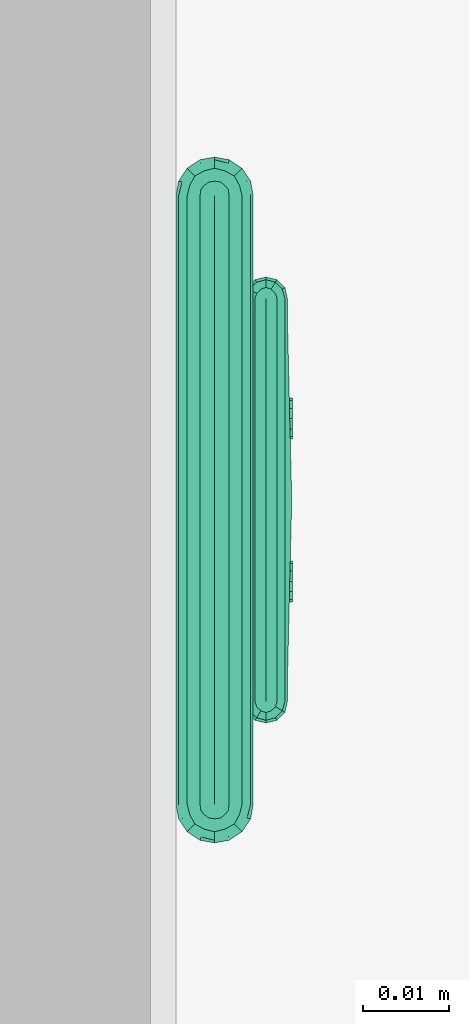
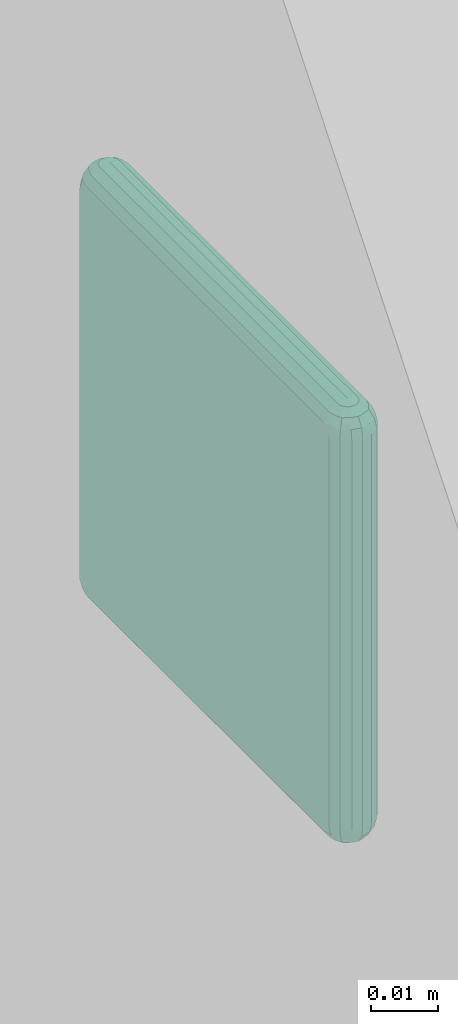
# One storey, part 8 of 11: 1 outlet.
"""IFC4 building model written with IfcOpenShell, lengths in millimetres."""

from ifc_helpers import new_model, si_unit, frame, origin_with_axes, place, context, subcontext, project, spatial, triangles, material, constituent, constituent_set, element, save


model = new_model("IFC4")

# Units and contexts
model_context = context("Model", 3, precision=0.01, world=origin_with_axes())
body_context = subcontext(model_context, "Body", "Model", "MODEL_VIEW")
ifc_project = project(units=[si_unit("LENGTHUNIT", "METRE", prefix="MILLI"), si_unit("AREAUNIT", "SQUARE_METRE"), si_unit("VOLUMEUNIT", "CUBIC_METRE"), si_unit("PLANEANGLEUNIT", "RADIAN")], contexts=[model_context])

# Site, building, storey
site_placement = place(None, origin_with_axes())
site = spatial("IfcSite", under=ifc_project, at=site_placement, Name="Участок", CompositionType="ELEMENT")
building_placement = place(site_placement, origin_with_axes())
building = spatial("IfcBuilding", under=site, at=building_placement, Name="Жилой дом", CompositionType="ELEMENT")
storey_placement = place(building_placement, origin_with_axes())
storey = spatial("IfcBuildingStorey", under=building, at=storey_placement, Name="Квартира ±0,000", CompositionType="ELEMENT", Elevation=0.0)

# Outlet
ifc_material_1 = material(Name="ЭУИ белые матовые (по кадру)")
ifc_constituent_1 = constituent(ifc_material_1)
ifc_material_2 = material(Name="Металл чёрный матовый RAL 9005")
ifc_constituent_2 = constituent(ifc_material_2)
ifc_constituent_set = constituent_set(constituents=[ifc_constituent_1, ifc_constituent_2], Name="ЭУИ белые матовые (по кадру) + Металл чёрный матовый RAL 9005")
outlet_placement = place(storey_placement, frame((3.0, 3035.0, 2100.0)))
element("IfcOutlet", 1, at=outlet_placement, inside=storey, material=ifc_constituent_set, Name="Розетка +2100", PredefinedType="POWEROUTLET", context=body_context, shape_type="Tessellation", body=[
    triangles([(4.5, 75.5, 0.0), (4.5, 75.5, 0.0), (4.5, 75.5, 0.0), (4.5, 75.5, 0.0), (4.5, 75.5, 0.0), (4.5, 4.5, 0.0), (4.5, 4.5, 0.0), (4.5, 4.5, 0.0), (4.5, 4.5, 0.0), (4.5, 4.5, 0.0), (4.5, 4.5, 0.0), (4.5, 4.5, 0.0), (4.5, 4.5, 0.0), (4.5, 4.5, 0.0), (4.5, 4.5, 0.0), (4.5, 75.5, 0.0), (4.5, 75.5, 0.0), (4.5, 75.5, 0.0), (4.5, 75.5, 0.0), (4.5, 75.5, 0.0), (4.5, 77.2, 0.3), (5.2, 77.1, 0.3), (5.7, 76.7, 0.3), (6.1, 76.2, 0.3), (6.2, 75.5, 0.3), (6.2, 4.5, 0.3), (6.1, 3.8, 0.3), (5.7, 3.3, 0.3), (5.2, 2.9, 0.3), (4.5, 2.8, 0.3), (4.5, 2.8, 0.3), (3.8, 2.9, 0.3), (3.3, 3.3, 0.3), (2.9, 3.8, 0.3), (2.8, 4.5, 0.3), (2.8, 75.5, 0.3), (2.9, 76.2, 0.3), (3.3, 76.7, 0.3), (3.8, 77.1, 0.3), (4.5, 77.2, 0.3), (4.5, 78.7, 1.3), (5.7, 78.4, 1.3), (6.8, 77.8, 1.3), (7.4, 76.7, 1.3), (7.7, 75.5, 1.3), (7.7, 4.5, 1.3), (7.4, 3.3, 1.3), (6.8, 2.2, 1.3), (5.7, 1.6, 1.3), (4.5, 1.3, 1.3), (4.5, 1.3, 1.3), (3.3, 1.6, 1.3), (2.2, 2.2, 1.3), (1.6, 3.3, 1.3), (1.3, 4.5, 1.3), (1.3, 75.5, 1.3), (1.6, 76.7, 1.3), (2.2, 77.8, 1.3), (3.3, 78.4, 1.3), (4.5, 78.7, 1.3), (4.5, 79.7, 2.8), (6.1, 79.3, 2.8), (7.4, 78.4, 2.8), (8.3, 77.1, 2.8), (8.7, 75.5, 2.8), (8.7, 4.5, 2.8), (8.3, 2.9, 2.8), (7.4, 1.6, 2.8), (6.1, 0.7, 2.8), (4.5, 0.3, 2.8), (4.5, 0.3, 2.8), (2.9, 0.7, 2.8), (1.6, 1.6, 2.8), (0.7, 2.9, 2.8), (0.3, 4.5, 2.8), (0.3, 75.5, 2.8), (0.7, 77.1, 2.8), (1.6, 78.4, 2.8), (2.9, 79.3, 2.8), (4.5, 79.7, 2.8), (4.5, 80.0, 4.5), (6.2, 79.7, 4.5), (7.7, 78.7, 4.5), (8.7, 77.2, 4.5), (9.0, 75.5, 4.5), (9.0, 4.5, 4.5), (8.7, 2.8, 4.5), (7.7, 1.3, 4.5), (6.2, 0.3, 4.5), (4.5, 0.0, 4.5), (4.5, 0.0, 4.5), (2.8, 0.3, 4.5), (1.3, 1.3, 4.5), (0.3, 2.8, 4.5), (0.0, 4.5, 4.5), (0.0, 75.5, 4.5), (0.3, 77.2, 4.5), (1.3, 78.7, 4.5), (2.8, 79.7, 4.5), (4.5, 80.0, 4.5), (4.5, 80.0, 75.5), (6.2, 79.7, 75.5), (7.7, 78.7, 75.5), (8.7, 77.2, 75.5), (9.0, 75.5, 75.5), (9.0, 4.5, 75.5), (8.7, 2.8, 75.5), (7.7, 1.3, 75.5), (6.2, 0.3, 75.5), (4.5, 0.0, 75.5), (4.5, 0.0, 75.5), (2.8, 0.3, 75.5), (1.3, 1.3, 75.5), (0.3, 2.8, 75.5), (0.0, 4.5, 75.5), (0.0, 75.5, 75.5), (0.3, 77.2, 75.5), (1.3, 78.7, 75.5), (2.8, 79.7, 75.5), (4.5, 80.0, 75.5), (4.5, 79.7, 77.2), (6.1, 79.3, 77.2), (7.4, 78.4, 77.2), (8.3, 77.1, 77.2), (8.7, 75.5, 77.2), (8.7, 4.5, 77.2), (8.3, 2.9, 77.2), (7.4, 1.6, 77.2), (6.1, 0.7, 77.2), (4.5, 0.3, 77.2), (4.5, 0.3, 77.2), (2.9, 0.7, 77.2), (1.6, 1.6, 77.2), (0.7, 2.9, 77.2), (0.3, 4.5, 77.2), (0.3, 75.5, 77.2), (0.7, 77.1, 77.2), (1.6, 78.4, 77.2), (2.9, 79.3, 77.2), (4.5, 79.7, 77.2), (4.5, 78.7, 78.7), (5.7, 78.4, 78.7), (6.8, 77.8, 78.7), (7.4, 76.7, 78.7), (7.7, 75.5, 78.7), (7.7, 4.5, 78.7), (7.4, 3.3, 78.7), (6.8, 2.2, 78.7), (5.7, 1.6, 78.7), (4.5, 1.3, 78.7), (4.5, 1.3, 78.7), (3.3, 1.6, 78.7), (2.2, 2.2, 78.7), (1.6, 3.3, 78.7), (1.3, 4.5, 78.7), (1.3, 75.5, 78.7), (1.6, 76.7, 78.7), (2.2, 77.8, 78.7), (3.3, 78.4, 78.7), (4.5, 78.7, 78.7), (4.5, 77.2, 79.7), (5.2, 77.1, 79.7), (5.7, 76.7, 79.7), (6.1, 76.2, 79.7), (6.2, 75.5, 79.7), (6.2, 4.5, 79.7), (6.1, 3.8, 79.7), (5.7, 3.3, 79.7), (5.2, 2.9, 79.7), (4.5, 2.8, 79.7), (4.5, 2.8, 79.7), (3.8, 2.9, 79.7), (3.3, 3.3, 79.7), (2.9, 3.8, 79.7), (2.8, 4.5, 79.7), (2.8, 75.5, 79.7), (2.9, 76.2, 79.7), (3.3, 76.7, 79.7), (3.8, 77.1, 79.7), (4.5, 77.2, 79.7), (4.5, 75.5, 80.0), (4.5, 75.5, 80.0), (4.5, 75.5, 80.0), (4.5, 75.5, 80.0), (4.5, 75.5, 80.0), (4.5, 4.5, 80.0), (4.5, 4.5, 80.0), (4.5, 4.5, 80.0), (4.5, 4.5, 80.0), (4.5, 4.5, 80.0), (4.5, 4.5, 80.0), (4.5, 4.5, 80.0), (4.5, 4.5, 80.0), (4.5, 4.5, 80.0), (4.5, 4.5, 80.0), (4.5, 75.5, 80.0), (4.5, 75.5, 80.0), (4.5, 75.5, 80.0), (4.5, 75.5, 80.0), (4.5, 75.5, 80.0), (10.5, 63.5, 14.0), (10.5, 63.5, 14.0), (10.5, 63.5, 14.0), (10.5, 63.5, 14.0), (10.5, 16.5, 14.0), (10.5, 16.5, 14.0), (10.5, 16.5, 14.0), (10.5, 16.5, 14.0), (10.5, 16.5, 14.0), (10.5, 16.5, 14.0), (10.5, 16.5, 14.0), (10.5, 16.5, 14.0), (10.5, 63.5, 14.0), (10.5, 63.5, 14.0), (10.5, 63.5, 14.0), (10.5, 63.5, 14.0), (10.5, 64.8, 14.3), (11.1, 64.6, 14.3), (11.6, 64.1, 14.3), (11.8, 63.5, 14.3), (11.8, 16.5, 14.3), (11.6, 15.9, 14.3), (11.1, 15.4, 14.3), (10.5, 15.2, 14.3), (10.5, 15.2, 14.3), (9.9, 15.4, 14.3), (9.4, 15.9, 14.3), (9.2, 16.5, 14.3), (9.2, 63.5, 14.3), (9.4, 64.1, 14.3), (9.9, 64.6, 14.3), (10.5, 64.8, 14.3), (10.5, 65.7, 15.2), (11.6, 65.4, 15.2), (12.4, 64.6, 15.2), (12.7, 63.5, 15.2), (12.7, 16.5, 15.2), (12.4, 15.4, 15.2), (11.6, 14.6, 15.2), (10.5, 14.3, 15.2), (10.5, 14.3, 15.2), (9.4, 14.6, 15.2), (8.6, 15.4, 15.2), (8.3, 16.5, 15.2), (8.3, 63.5, 15.2), (8.6, 64.6, 15.2), (9.4, 65.4, 15.2), (10.5, 65.7, 15.2), (10.5, 66.0, 16.5), (11.8, 65.7, 16.5), (12.7, 64.8, 16.5), (13.0, 63.5, 16.5), (13.0, 16.5, 16.5), (12.7, 15.2, 16.5), (11.8, 14.3, 16.5), (10.5, 14.0, 16.5), (10.5, 14.0, 16.5), (9.2, 14.3, 16.5), (8.3, 15.2, 16.5), (8.0, 16.5, 16.5), (8.0, 63.5, 16.5), (8.3, 64.8, 16.5), (9.2, 65.7, 16.5), (10.5, 66.0, 16.5), (10.5, 66.0, 63.5), (11.8, 65.7, 63.5), (12.7, 64.8, 63.5), (13.0, 63.5, 63.5), (13.0, 16.5, 63.5), (12.7, 15.2, 63.5), (11.8, 14.3, 63.5), (10.5, 14.0, 63.5), (10.5, 14.0, 63.5), (9.2, 14.3, 63.5), (8.3, 15.2, 63.5), (8.0, 16.5, 63.5), (8.0, 63.5, 63.5), (8.3, 64.8, 63.5), (9.2, 65.7, 63.5), (10.5, 66.0, 63.5), (10.5, 65.7, 64.8), (11.6, 65.4, 64.8), (12.4, 64.6, 64.8), (12.7, 63.5, 64.8), (12.7, 16.5, 64.8), (12.4, 15.4, 64.8), (11.6, 14.6, 64.8), (10.5, 14.3, 64.8), (10.5, 14.3, 64.8), (9.4, 14.6, 64.8), (8.6, 15.4, 64.8), (8.3, 16.5, 64.8), (8.3, 63.5, 64.8), (8.6, 64.6, 64.8), (9.4, 65.4, 64.8), (10.5, 65.7, 64.8), (10.5, 64.8, 65.7), (11.1, 64.6, 65.7), (11.6, 64.1, 65.7), (11.8, 63.5, 65.7), (11.8, 16.5, 65.7), (11.6, 15.9, 65.7), (11.1, 15.4, 65.7), (10.5, 15.2, 65.7), (10.5, 15.2, 65.7), (9.9, 15.4, 65.7), (9.4, 15.9, 65.7), (9.2, 16.5, 65.7), (9.2, 63.5, 65.7), (9.4, 64.1, 65.7), (9.9, 64.6, 65.7), (10.5, 64.8, 65.7), (10.5, 63.5, 66.0), (10.5, 63.5, 66.0), (10.5, 63.5, 66.0), (10.5, 63.5, 66.0), (10.5, 16.5, 66.0), (10.5, 16.5, 66.0), (10.5, 16.5, 66.0), (10.5, 16.5, 66.0), (10.5, 16.5, 66.0), (10.5, 16.5, 66.0), (10.5, 16.5, 66.0), (10.5, 16.5, 66.0), (10.5, 63.5, 66.0), (10.5, 63.5, 66.0), (10.5, 63.5, 66.0), (10.5, 63.5, 66.0)], [[1, 2, 22], [1, 22, 21], [2, 3, 23], [2, 23, 22], [3, 4, 24], [3, 24, 23], [4, 5, 25], [4, 25, 24], [5, 6, 26], [5, 26, 25], [6, 7, 27], [6, 27, 26], [7, 8, 28], [7, 28, 27], [8, 9, 29], [8, 29, 28], [9, 10, 30], [9, 30, 29], [10, 11, 31], [10, 31, 30], [11, 12, 32], [11, 32, 31], [12, 13, 33], [12, 33, 32], [13, 14, 34], [13, 34, 33], [14, 15, 35], [14, 35, 34], [15, 16, 36], [15, 36, 35], [16, 17, 37], [16, 37, 36], [17, 18, 38], [17, 38, 37], [18, 19, 39], [18, 39, 38], [19, 20, 40], [19, 40, 39], [20, 1, 21], [20, 21, 40], [21, 22, 42], [21, 42, 41], [22, 23, 43], [22, 43, 42], [23, 24, 44], [23, 44, 43], [24, 25, 45], [24, 45, 44], [25, 26, 46], [25, 46, 45], [26, 27, 47], [26, 47, 46], [27, 28, 48], [27, 48, 47], [28, 29, 49], [28, 49, 48], [29, 30, 50], [29, 50, 49], [30, 31, 51], [30, 51, 50], [31, 32, 52], [31, 52, 51], [32, 33, 53], [32, 53, 52], [33, 34, 54], [33, 54, 53], [34, 35, 55], [34, 55, 54], [35, 36, 56], [35, 56, 55], [36, 37, 57], [36, 57, 56], [37, 38, 58], [37, 58, 57], [38, 39, 59], [38, 59, 58], [39, 40, 60], [39, 60, 59], [40, 21, 41], [40, 41, 60], [41, 42, 62], [41, 62, 61], [42, 43, 63], [42, 63, 62], [43, 44, 64], [43, 64, 63], [44, 45, 65], [44, 65, 64], [45, 46, 66], [45, 66, 65], [46, 47, 67], [46, 67, 66], [47, 48, 68], [47, 68, 67], [48, 49, 69], [48, 69, 68], [49, 50, 70], [49, 70, 69], [50, 51, 71], [50, 71, 70], [51, 52, 72], [51, 72, 71], [52, 53, 73], [52, 73, 72], [53, 54, 74], [53, 74, 73], [54, 55, 75], [54, 75, 74], [55, 56, 76], [55, 76, 75], [56, 57, 77], [56, 77, 76], [57, 58, 78], [57, 78, 77], [58, 59, 79], [58, 79, 78], [59, 60, 80], [59, 80, 79], [60, 41, 61], [60, 61, 80], [61, 62, 82], [61, 82, 81], [62, 63, 83], [62, 83, 82], [63, 64, 84], [63, 84, 83], [64, 65, 85], [64, 85, 84], [65, 66, 86], [65, 86, 85], [66, 67, 87], [66, 87, 86], [67, 68, 88], [67, 88, 87], [68, 69, 89], [68, 89, 88], [69, 70, 90], [69, 90, 89], [70, 71, 91], [70, 91, 90], [71, 72, 92], [71, 92, 91], [72, 73, 93], [72, 93, 92], [73, 74, 94], [73, 94, 93], [74, 75, 95], [74, 95, 94], [75, 76, 96], [75, 96, 95], [76, 77, 97], [76, 97, 96], [77, 78, 98], [77, 98, 97], [78, 79, 99], [78, 99, 98], [79, 80, 100], [79, 100, 99], [80, 61, 81], [80, 81, 100], [81, 82, 102], [81, 102, 101], [82, 83, 103], [82, 103, 102], [83, 84, 104], [83, 104, 103], [84, 85, 105], [84, 105, 104], [85, 86, 106], [85, 106, 105], [86, 87, 107], [86, 107, 106], [87, 88, 108], [87, 108, 107], [88, 89, 109], [88, 109, 108], [89, 90, 110], [89, 110, 109], [90, 91, 111], [90, 111, 110], [91, 92, 112], [91, 112, 111], [92, 93, 113], [92, 113, 112], [93, 94, 114], [93, 114, 113], [94, 95, 115], [94, 115, 114], [95, 96, 116], [95, 116, 115], [96, 97, 117], [96, 117, 116], [97, 98, 118], [97, 118, 117], [98, 99, 119], [98, 119, 118], [99, 100, 120], [99, 120, 119], [100, 81, 101], [100, 101, 120], [101, 102, 122], [101, 122, 121], [102, 103, 123], [102, 123, 122], [103, 104, 124], [103, 124, 123], [104, 105, 125], [104, 125, 124], [105, 106, 126], [105, 126, 125], [106, 107, 127], [106, 127, 126], [107, 108, 128], [107, 128, 127], [108, 109, 129], [108, 129, 128], [109, 110, 130], [109, 130, 129], [110, 111, 131], [110, 131, 130], [111, 112, 132], [111, 132, 131], [112, 113, 133], [112, 133, 132], [113, 114, 134], [113, 134, 133], [114, 115, 135], [114, 135, 134], [115, 116, 136], [115, 136, 135], [116, 117, 137], [116, 137, 136], [117, 118, 138], [117, 138, 137], [118, 119, 139], [118, 139, 138], [119, 120, 140], [119, 140, 139], [120, 101, 121], [120, 121, 140], [121, 122, 142], [121, 142, 141], [122, 123, 143], [122, 143, 142], [123, 124, 144], [123, 144, 143], [124, 125, 145], [124, 145, 144], [125, 126, 146], [125, 146, 145], [126, 127, 147], [126, 147, 146], [127, 128, 148], [127, 148, 147], [128, 129, 149], [128, 149, 148], [129, 130, 150], [129, 150, 149], [130, 131, 151], [130, 151, 150], [131, 132, 152], [131, 152, 151], [132, 133, 153], [132, 153, 152], [133, 134, 154], [133, 154, 153], [134, 135, 155], [134, 155, 154], [135, 136, 156], [135, 156, 155], [136, 137, 157], [136, 157, 156], [137, 138, 158], [137, 158, 157], [138, 139, 159], [138, 159, 158], [139, 140, 160], [139, 160, 159], [140, 121, 141], [140, 141, 160], [141, 142, 162], [141, 162, 161], [142, 143, 163], [142, 163, 162], [143, 144, 164], [143, 164, 163], [144, 145, 165], [144, 165, 164], [145, 146, 166], [145, 166, 165], [146, 147, 167], [146, 167, 166], [147, 148, 168], [147, 168, 167], [148, 149, 169], [148, 169, 168], [149, 150, 170], [149, 170, 169], [150, 151, 171], [150, 171, 170], [151, 152, 172], [151, 172, 171], [152, 153, 173], [152, 173, 172], [153, 154, 174], [153, 174, 173], [154, 155, 175], [154, 175, 174], [155, 156, 176], [155, 176, 175], [156, 157, 177], [156, 177, 176], [157, 158, 178], [157, 178, 177], [158, 159, 179], [158, 179, 178], [159, 160, 180], [159, 180, 179], [160, 141, 161], [160, 161, 180], [161, 162, 182], [161, 182, 181], [162, 163, 183], [162, 183, 182], [163, 164, 184], [163, 184, 183], [164, 165, 185], [164, 185, 184], [165, 166, 186], [165, 186, 185], [166, 167, 187], [166, 187, 186], [167, 168, 188], [167, 188, 187], [168, 169, 189], [168, 189, 188], [169, 170, 190], [169, 190, 189], [170, 171, 191], [170, 191, 190], [171, 172, 192], [171, 192, 191], [172, 173, 193], [172, 193, 192], [173, 174, 194], [173, 194, 193], [174, 175, 195], [174, 195, 194], [175, 176, 196], [175, 196, 195], [176, 177, 197], [176, 197, 196], [177, 178, 198], [177, 198, 197], [178, 179, 199], [178, 199, 198], [179, 180, 200], [179, 200, 199], [180, 161, 181], [180, 181, 200], [201, 202, 218], [201, 218, 217], [202, 203, 219], [202, 219, 218], [203, 204, 220], [203, 220, 219], [204, 205, 221], [204, 221, 220], [205, 206, 222], [205, 222, 221], [206, 207, 223], [206, 223, 222], [207, 208, 224], [207, 224, 223], [208, 209, 225], [208, 225, 224], [209, 210, 226], [209, 226, 225], [210, 211, 227], [210, 227, 226], [211, 212, 228], [211, 228, 227], [212, 213, 229], [212, 229, 228], [213, 214, 230], [213, 230, 229], [214, 215, 231], [214, 231, 230], [215, 216, 232], [215, 232, 231], [216, 201, 217], [216, 217, 232], [217, 218, 234], [217, 234, 233], [218, 219, 235], [218, 235, 234], [219, 220, 236], [219, 236, 235], [220, 221, 237], [220, 237, 236], [221, 222, 238], [221, 238, 237], [222, 223, 239], [222, 239, 238], [223, 224, 240], [223, 240, 239], [224, 225, 241], [224, 241, 240], [225, 226, 242], [225, 242, 241], [226, 227, 243], [226, 243, 242], [227, 228, 244], [227, 244, 243], [228, 229, 245], [228, 245, 244], [229, 230, 246], [229, 246, 245], [230, 231, 247], [230, 247, 246], [231, 232, 248], [231, 248, 247], [232, 217, 233], [232, 233, 248], [233, 234, 250], [233, 250, 249], [234, 235, 251], [234, 251, 250], [235, 236, 252], [235, 252, 251], [236, 237, 253], [236, 253, 252], [237, 238, 254], [237, 254, 253], [238, 239, 255], [238, 255, 254], [239, 240, 256], [239, 256, 255], [240, 241, 257], [240, 257, 256], [241, 242, 258], [241, 258, 257], [242, 243, 259], [242, 259, 258], [243, 244, 260], [243, 260, 259], [244, 245, 261], [244, 261, 260], [245, 246, 262], [245, 262, 261], [246, 247, 263], [246, 263, 262], [247, 248, 264], [247, 264, 263], [248, 233, 249], [248, 249, 264], [249, 250, 266], [249, 266, 265], [250, 251, 267], [250, 267, 266], [251, 252, 268], [251, 268, 267], [252, 253, 269], [252, 269, 268], [253, 254, 270], [253, 270, 269], [254, 255, 271], [254, 271, 270], [255, 256, 272], [255, 272, 271], [256, 257, 273], [256, 273, 272], [257, 258, 274], [257, 274, 273], [258, 259, 275], [258, 275, 274], [259, 260, 276], [259, 276, 275], [260, 261, 277], [260, 277, 276], [261, 262, 278], [261, 278, 277], [262, 263, 279], [262, 279, 278], [263, 264, 280], [263, 280, 279], [264, 249, 265], [264, 265, 280], [265, 266, 282], [265, 282, 281], [266, 267, 283], [266, 283, 282], [267, 268, 284], [267, 284, 283], [268, 269, 285], [268, 285, 284], [269, 270, 286], [269, 286, 285], [270, 271, 287], [270, 287, 286], [271, 272, 288], [271, 288, 287], [272, 273, 289], [272, 289, 288], [273, 274, 290], [273, 290, 289], [274, 275, 291], [274, 291, 290], [275, 276, 292], [275, 292, 291], [276, 277, 293], [276, 293, 292], [277, 278, 294], [277, 294, 293], [278, 279, 295], [278, 295, 294], [279, 280, 296], [279, 296, 295], [280, 265, 281], [280, 281, 296], [281, 282, 298], [281, 298, 297], [282, 283, 299], [282, 299, 298], [283, 284, 300], [283, 300, 299], [284, 285, 301], [284, 301, 300], [285, 286, 302], [285, 302, 301], [286, 287, 303], [286, 303, 302], [287, 288, 304], [287, 304, 303], [288, 289, 305], [288, 305, 304], [289, 290, 306], [289, 306, 305], [290, 291, 307], [290, 307, 306], [291, 292, 308], [291, 308, 307], [292, 293, 309], [292, 309, 308], [293, 294, 310], [293, 310, 309], [294, 295, 311], [294, 311, 310], [295, 296, 312], [295, 312, 311], [296, 281, 297], [296, 297, 312], [297, 298, 314], [297, 314, 313], [298, 299, 315], [298, 315, 314], [299, 300, 316], [299, 316, 315], [300, 301, 317], [300, 317, 316], [301, 302, 318], [301, 318, 317], [302, 303, 319], [302, 319, 318], [303, 304, 320], [303, 320, 319], [304, 305, 321], [304, 321, 320], [305, 306, 322], [305, 322, 321], [306, 307, 323], [306, 323, 322], [307, 308, 324], [307, 324, 323], [308, 309, 325], [308, 325, 324], [309, 310, 326], [309, 326, 325], [310, 311, 327], [310, 327, 326], [311, 312, 328], [311, 328, 327], [312, 297, 313], [312, 313, 328]]),
    triangles([(4.0, 40.0, 40.0), (4.0, 40.0, 40.0), (4.0, 40.0, 40.0), (4.0, 40.0, 40.0), (4.0, 40.0, 40.0), (4.0, 40.0, 40.0), (4.0, 40.0, 40.0), (4.0, 40.0, 40.0), (4.0, 40.0, 40.0), (4.0, 40.0, 40.0), (4.0, 40.0, 40.0), (4.0, 40.0, 40.0), (4.0, 40.0, 40.0), (4.0, 40.0, 40.0), (4.0, 40.0, 40.0), (4.0, 40.0, 40.0), (4.0, 40.0, 40.0), (4.0, 40.0, 40.0), (4.0, 40.0, 40.0), (4.0, 40.0, 40.0), (4.0, 40.0, 40.0), (4.0, 40.0, 40.0), (4.0, 40.0, 40.0), (4.0, 40.0, 40.0), (4.0, 40.0, 40.0), (4.0, 40.0, 40.0), (4.0, 40.0, 40.0), (4.0, 40.0, 40.0), (4.0, 40.0, 40.0), (4.0, 40.0, 40.0), (4.0, 40.0, 40.0), (4.0, 40.0, 40.0), (4.0, 59.0, 40.0), (4.0, 58.6, 43.7), (4.0, 57.6, 47.3), (4.0, 55.8, 50.6), (4.0, 53.4, 53.4), (4.0, 50.6, 55.8), (4.0, 47.3, 57.6), (4.0, 43.7, 58.6), (4.0, 40.0, 59.0), (4.0, 36.3, 58.6), (4.0, 32.7, 57.6), (4.0, 29.4, 55.8), (4.0, 26.6, 53.4), (4.0, 24.2, 50.6), (4.0, 22.4, 47.3), (4.0, 21.4, 43.7), (4.0, 21.0, 40.0), (4.0, 21.4, 36.3), (4.0, 22.4, 32.7), (4.0, 24.2, 29.4), (4.0, 26.6, 26.6), (4.0, 29.4, 24.2), (4.0, 32.7, 22.4), (4.0, 36.3, 21.4), (4.0, 40.0, 21.0), (4.0, 43.7, 21.4), (4.0, 47.3, 22.4), (4.0, 50.6, 24.2), (4.0, 53.4, 26.6), (4.0, 55.8, 29.4), (4.0, 57.6, 32.7), (4.0, 58.6, 36.3), (12.0, 59.0, 40.0), (12.0, 58.6, 43.7), (12.0, 57.6, 47.3), (12.0, 55.8, 50.6), (12.0, 53.4, 53.4), (12.0, 50.6, 55.8), (12.0, 47.3, 57.6), (12.0, 43.7, 58.6), (12.0, 40.0, 59.0), (12.0, 36.3, 58.6), (12.0, 32.7, 57.6), (12.0, 29.4, 55.8), (12.0, 26.6, 53.4), (12.0, 24.2, 50.6), (12.0, 22.4, 47.3), (12.0, 21.4, 43.7), (12.0, 21.0, 40.0), (12.0, 21.4, 36.3), (12.0, 22.4, 32.7), (12.0, 24.2, 29.4), (12.0, 26.6, 26.6), (12.0, 29.4, 24.2), (12.0, 32.7, 22.4), (12.0, 36.3, 21.4), (12.0, 40.0, 21.0), (12.0, 43.7, 21.4), (12.0, 47.3, 22.4), (12.0, 50.6, 24.2), (12.0, 53.4, 26.6), (12.0, 55.8, 29.4), (12.0, 57.6, 32.7), (12.0, 58.6, 36.3), (13.0, 61.0, 40.0), (13.0, 60.6, 44.1), (13.0, 59.4, 48.0), (13.0, 57.5, 51.7), (13.0, 54.8, 54.8), (13.0, 51.7, 57.5), (13.0, 48.0, 59.4), (13.0, 44.1, 60.6), (13.0, 40.0, 61.0), (13.0, 35.9, 60.6), (13.0, 32.0, 59.4), (13.0, 28.3, 57.5), (13.0, 25.2, 54.8), (13.0, 22.5, 51.7), (13.0, 20.6, 48.0), (13.0, 19.4, 44.1), (13.0, 19.0, 40.0), (13.0, 19.4, 35.9), (13.0, 20.6, 32.0), (13.0, 22.5, 28.3), (13.0, 25.2, 25.2), (13.0, 28.3, 22.5), (13.0, 32.0, 20.6), (13.0, 35.9, 19.4), (13.0, 40.0, 19.0), (13.0, 44.1, 19.4), (13.0, 48.0, 20.6), (13.0, 51.7, 22.5), (13.0, 54.8, 25.2), (13.0, 57.5, 28.3), (13.0, 59.4, 32.0), (13.0, 60.6, 35.9), (13.5, 40.0, 40.0), (13.5, 40.0, 40.0), (13.5, 40.0, 40.0), (13.5, 40.0, 40.0), (13.5, 40.0, 40.0), (13.5, 40.0, 40.0), (13.5, 40.0, 40.0), (13.5, 40.0, 40.0), (13.5, 40.0, 40.0), (13.5, 40.0, 40.0), (13.5, 40.0, 40.0), (13.5, 40.0, 40.0), (13.5, 40.0, 40.0), (13.5, 40.0, 40.0), (13.5, 40.0, 40.0), (13.5, 40.0, 40.0), (13.5, 40.0, 40.0), (13.5, 40.0, 40.0), (13.5, 40.0, 40.0), (13.5, 40.0, 40.0), (13.5, 40.0, 40.0), (13.5, 40.0, 40.0), (13.5, 40.0, 40.0), (13.5, 40.0, 40.0), (13.5, 40.0, 40.0), (13.5, 40.0, 40.0), (13.5, 40.0, 40.0), (13.5, 40.0, 40.0), (13.5, 40.0, 40.0), (13.5, 40.0, 40.0), (13.5, 40.0, 40.0), (13.5, 40.0, 40.0), (7.0, 30.5, 40.0), (7.0, 30.5, 40.0), (7.0, 30.5, 40.0), (7.0, 30.5, 40.0), (7.0, 30.5, 40.0), (7.0, 30.5, 40.0), (7.0, 30.5, 40.0), (7.0, 30.5, 40.0), (7.0, 30.5, 40.0), (7.0, 30.5, 40.0), (7.0, 30.5, 40.0), (7.0, 30.5, 40.0), (7.0, 32.9, 40.0), (7.0, 32.6, 41.2), (7.0, 31.7, 42.1), (7.0, 30.5, 42.4), (7.0, 29.3, 42.1), (7.0, 28.4, 41.2), (7.0, 28.1, 40.0), (7.0, 28.4, 38.8), (7.0, 29.3, 37.9), (7.0, 30.5, 37.6), (7.0, 31.7, 37.9), (7.0, 32.6, 38.8), (13.6, 32.9, 40.0), (13.6, 32.6, 41.2), (13.6, 31.7, 42.1), (13.6, 30.5, 42.4), (13.6, 29.3, 42.1), (13.6, 28.4, 41.2), (13.6, 28.1, 40.0), (13.6, 28.4, 38.8), (13.6, 29.3, 37.9), (13.6, 30.5, 37.6), (13.6, 31.7, 37.9), (13.6, 32.6, 38.8), (13.6, 30.5, 40.0), (13.6, 30.5, 40.0), (13.6, 30.5, 40.0), (13.6, 30.5, 40.0), (13.6, 30.5, 40.0), (13.6, 30.5, 40.0), (13.6, 30.5, 40.0), (13.6, 30.5, 40.0), (13.6, 30.5, 40.0), (13.6, 30.5, 40.0), (13.6, 30.5, 40.0), (13.6, 30.5, 40.0), (7.0, 49.5, 40.0), (7.0, 49.5, 40.0), (7.0, 49.5, 40.0), (7.0, 49.5, 40.0), (7.0, 49.5, 40.0), (7.0, 49.5, 40.0), (7.0, 49.5, 40.0), (7.0, 49.5, 40.0), (7.0, 49.5, 40.0), (7.0, 49.5, 40.0), (7.0, 49.5, 40.0), (7.0, 49.5, 40.0), (7.0, 51.9, 40.0), (7.0, 51.6, 41.2), (7.0, 50.7, 42.1), (7.0, 49.5, 42.4), (7.0, 48.3, 42.1), (7.0, 47.4, 41.2), (7.0, 47.1, 40.0), (7.0, 47.4, 38.8), (7.0, 48.3, 37.9), (7.0, 49.5, 37.6), (7.0, 50.7, 37.9), (7.0, 51.6, 38.8), (13.6, 51.9, 40.0), (13.6, 51.6, 41.2), (13.6, 50.7, 42.1), (13.6, 49.5, 42.4), (13.6, 48.3, 42.1), (13.6, 47.4, 41.2), (13.6, 47.1, 40.0), (13.6, 47.4, 38.8), (13.6, 48.3, 37.9), (13.6, 49.5, 37.6), (13.6, 50.7, 37.9), (13.6, 51.6, 38.8), (13.6, 49.5, 40.0), (13.6, 49.5, 40.0), (13.6, 49.5, 40.0), (13.6, 49.5, 40.0), (13.6, 49.5, 40.0), (13.6, 49.5, 40.0), (13.6, 49.5, 40.0), (13.6, 49.5, 40.0), (13.6, 49.5, 40.0), (13.6, 49.5, 40.0), (13.6, 49.5, 40.0), (13.6, 49.5, 40.0)], [[1, 2, 34], [1, 34, 33], [2, 3, 35], [2, 35, 34], [3, 4, 36], [3, 36, 35], [4, 5, 37], [4, 37, 36], [5, 6, 38], [5, 38, 37], [6, 7, 39], [6, 39, 38], [7, 8, 40], [7, 40, 39], [8, 9, 41], [8, 41, 40], [9, 10, 42], [9, 42, 41], [10, 11, 43], [10, 43, 42], [11, 12, 44], [11, 44, 43], [12, 13, 45], [12, 45, 44], [13, 14, 46], [13, 46, 45], [14, 15, 47], [14, 47, 46], [15, 16, 48], [15, 48, 47], [16, 17, 49], [16, 49, 48], [17, 18, 50], [17, 50, 49], [18, 19, 51], [18, 51, 50], [19, 20, 52], [19, 52, 51], [20, 21, 53], [20, 53, 52], [21, 22, 54], [21, 54, 53], [22, 23, 55], [22, 55, 54], [23, 24, 56], [23, 56, 55], [24, 25, 57], [24, 57, 56], [25, 26, 58], [25, 58, 57], [26, 27, 59], [26, 59, 58], [27, 28, 60], [27, 60, 59], [28, 29, 61], [28, 61, 60], [29, 30, 62], [29, 62, 61], [30, 31, 63], [30, 63, 62], [31, 32, 64], [31, 64, 63], [32, 1, 33], [32, 33, 64], [33, 34, 66], [33, 66, 65], [34, 35, 67], [34, 67, 66], [35, 36, 68], [35, 68, 67], [36, 37, 69], [36, 69, 68], [37, 38, 70], [37, 70, 69], [38, 39, 71], [38, 71, 70], [39, 40, 72], [39, 72, 71], [40, 41, 73], [40, 73, 72], [41, 42, 74], [41, 74, 73], [42, 43, 75], [42, 75, 74], [43, 44, 76], [43, 76, 75], [44, 45, 77], [44, 77, 76], [45, 46, 78], [45, 78, 77], [46, 47, 79], [46, 79, 78], [47, 48, 80], [47, 80, 79], [48, 49, 81], [48, 81, 80], [49, 50, 82], [49, 82, 81], [50, 51, 83], [50, 83, 82], [51, 52, 84], [51, 84, 83], [52, 53, 85], [52, 85, 84], [53, 54, 86], [53, 86, 85], [54, 55, 87], [54, 87, 86], [55, 56, 88], [55, 88, 87], [56, 57, 89], [56, 89, 88], [57, 58, 90], [57, 90, 89], [58, 59, 91], [58, 91, 90], [59, 60, 92], [59, 92, 91], [60, 61, 93], [60, 93, 92], [61, 62, 94], [61, 94, 93], [62, 63, 95], [62, 95, 94], [63, 64, 96], [63, 96, 95], [64, 33, 65], [64, 65, 96], [65, 66, 98], [65, 98, 97], [66, 67, 99], [66, 99, 98], [67, 68, 100], [67, 100, 99], [68, 69, 101], [68, 101, 100], [69, 70, 102], [69, 102, 101], [70, 71, 103], [70, 103, 102], [71, 72, 104], [71, 104, 103], [72, 73, 105], [72, 105, 104], [73, 74, 106], [73, 106, 105], [74, 75, 107], [74, 107, 106], [75, 76, 108], [75, 108, 107], [76, 77, 109], [76, 109, 108], [77, 78, 110], [77, 110, 109], [78, 79, 111], [78, 111, 110], [79, 80, 112], [79, 112, 111], [80, 81, 113], [80, 113, 112], [81, 82, 114], [81, 114, 113], [82, 83, 115], [82, 115, 114], [83, 84, 116], [83, 116, 115], [84, 85, 117], [84, 117, 116], [85, 86, 118], [85, 118, 117], [86, 87, 119], [86, 119, 118], [87, 88, 120], [87, 120, 119], [88, 89, 121], [88, 121, 120], [89, 90, 122], [89, 122, 121], [90, 91, 123], [90, 123, 122], [91, 92, 124], [91, 124, 123], [92, 93, 125], [92, 125, 124], [93, 94, 126], [93, 126, 125], [94, 95, 127], [94, 127, 126], [95, 96, 128], [95, 128, 127], [96, 65, 97], [96, 97, 128], [97, 98, 130], [97, 130, 129], [98, 99, 131], [98, 131, 130], [99, 100, 132], [99, 132, 131], [100, 101, 133], [100, 133, 132], [101, 102, 134], [101, 134, 133], [102, 103, 135], [102, 135, 134], [103, 104, 136], [103, 136, 135], [104, 105, 137], [104, 137, 136], [105, 106, 138], [105, 138, 137], [106, 107, 139], [106, 139, 138], [107, 108, 140], [107, 140, 139], [108, 109, 141], [108, 141, 140], [109, 110, 142], [109, 142, 141], [110, 111, 143], [110, 143, 142], [111, 112, 144], [111, 144, 143], [112, 113, 145], [112, 145, 144], [113, 114, 146], [113, 146, 145], [114, 115, 147], [114, 147, 146], [115, 116, 148], [115, 148, 147], [116, 117, 149], [116, 149, 148], [117, 118, 150], [117, 150, 149], [118, 119, 151], [118, 151, 150], [119, 120, 152], [119, 152, 151], [120, 121, 153], [120, 153, 152], [121, 122, 154], [121, 154, 153], [122, 123, 155], [122, 155, 154], [123, 124, 156], [123, 156, 155], [124, 125, 157], [124, 157, 156], [125, 126, 158], [125, 158, 157], [126, 127, 159], [126, 159, 158], [127, 128, 160], [127, 160, 159], [128, 97, 129], [128, 129, 160], [161, 162, 174], [161, 174, 173], [162, 163, 175], [162, 175, 174], [163, 164, 176], [163, 176, 175], [164, 165, 177], [164, 177, 176], [165, 166, 178], [165, 178, 177], [166, 167, 179], [166, 179, 178], [167, 168, 180], [167, 180, 179], [168, 169, 181], [168, 181, 180], [169, 170, 182], [169, 182, 181], [170, 171, 183], [170, 183, 182], [171, 172, 184], [171, 184, 183], [172, 161, 173], [172, 173, 184], [173, 174, 186], [173, 186, 185], [174, 175, 187], [174, 187, 186], [175, 176, 188], [175, 188, 187], [176, 177, 189], [176, 189, 188], [177, 178, 190], [177, 190, 189], [178, 179, 191], [178, 191, 190], [179, 180, 192], [179, 192, 191], [180, 181, 193], [180, 193, 192], [181, 182, 194], [181, 194, 193], [182, 183, 195], [182, 195, 194], [183, 184, 196], [183, 196, 195], [184, 173, 185], [184, 185, 196], [185, 186, 198], [185, 198, 197], [186, 187, 199], [186, 199, 198], [187, 188, 200], [187, 200, 199], [188, 189, 201], [188, 201, 200], [189, 190, 202], [189, 202, 201], [190, 191, 203], [190, 203, 202], [191, 192, 204], [191, 204, 203], [192, 193, 205], [192, 205, 204], [193, 194, 206], [193, 206, 205], [194, 195, 207], [194, 207, 206], [195, 196, 208], [195, 208, 207], [196, 185, 197], [196, 197, 208], [209, 210, 222], [209, 222, 221], [210, 211, 223], [210, 223, 222], [211, 212, 224], [211, 224, 223], [212, 213, 225], [212, 225, 224], [213, 214, 226], [213, 226, 225], [214, 215, 227], [214, 227, 226], [215, 216, 228], [215, 228, 227], [216, 217, 229], [216, 229, 228], [217, 218, 230], [217, 230, 229], [218, 219, 231], [218, 231, 230], [219, 220, 232], [219, 232, 231], [220, 209, 221], [220, 221, 232], [221, 222, 234], [221, 234, 233], [222, 223, 235], [222, 235, 234], [223, 224, 236], [223, 236, 235], [224, 225, 237], [224, 237, 236], [225, 226, 238], [225, 238, 237], [226, 227, 239], [226, 239, 238], [227, 228, 240], [227, 240, 239], [228, 229, 241], [228, 241, 240], [229, 230, 242], [229, 242, 241], [230, 231, 243], [230, 243, 242], [231, 232, 244], [231, 244, 243], [232, 221, 233], [232, 233, 244], [233, 234, 246], [233, 246, 245], [234, 235, 247], [234, 247, 246], [235, 236, 248], [235, 248, 247], [236, 237, 249], [236, 249, 248], [237, 238, 250], [237, 250, 249], [238, 239, 251], [238, 251, 250], [239, 240, 252], [239, 252, 251], [240, 241, 253], [240, 253, 252], [241, 242, 254], [241, 254, 253], [242, 243, 255], [242, 255, 254], [243, 244, 256], [243, 256, 255], [244, 233, 245], [244, 245, 256]]),
])

save(model, "model.ifc")
